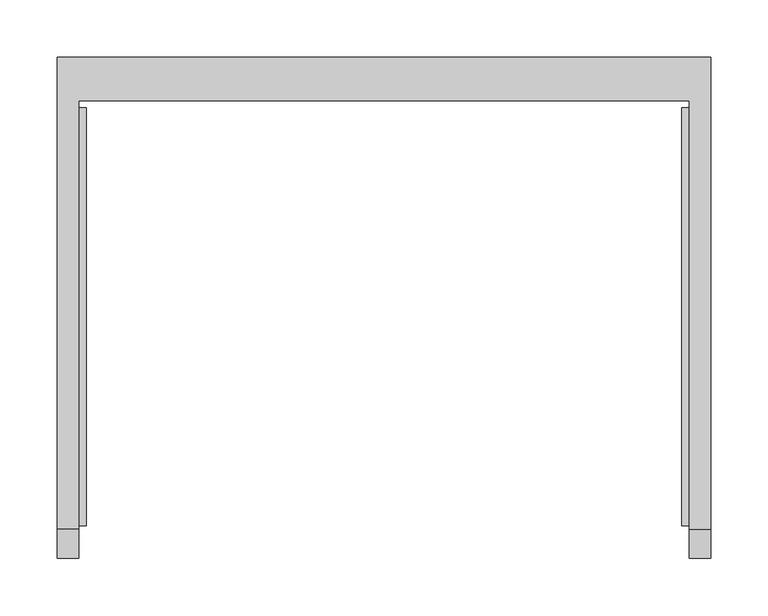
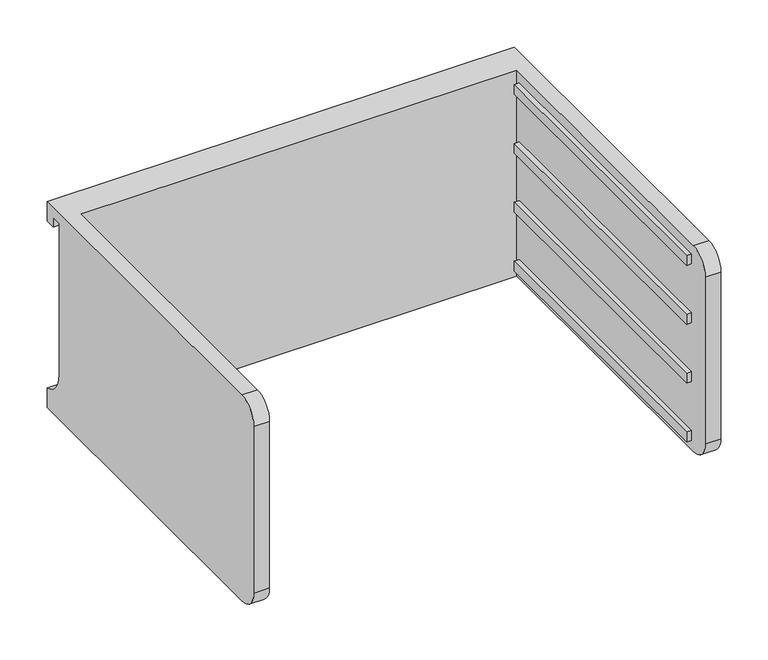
"""IFC4 building model written with IfcOpenShell, lengths in millimetres: furniture geometry."""

from ifc_helpers import new_model, si_unit, frame, origin, place, context, project, spatial, polyline, circle_curve, outline, extrude, source, transform, mapped, element, save
from ifc_brep_helpers import plane_surface, cylinder_surface, revolved_surface, advanced_brep


def furniture_cf1839e9(model_context):
    return source(origin(), model_context, "Body", "SolidModel", [
        advanced_brep(
        [(-171.7622951, -331.6523397, 592.1375), (-171.7622951, -357.0523397, 566.7375), (-171.7622951, -357.0523397, 350.8375), (-171.7622951, -331.6523397, 325.4375), (-171.7622951, 43.0421197, 325.4375), (-171.7622951, 43.0421197, 592.1375), (-190.8122951, -331.6523397, 325.4375), (-190.8122951, -357.0523397, 350.8375), (-190.8122951, -357.0523397, 566.7375), (-190.8122951, -331.6523397, 592.1375), (-190.8122951, 81.0976603, 592.1375), (-190.8122951, 81.0976603, 566.7375), (-190.8122951, 68.4421197, 566.7375), (-190.8122951, 68.4421197, 579.4375), (-190.8122951, 55.7421197, 579.4375), (-190.8122951, 55.7421197, 383.38252), (-190.8122951, 81.0976603, 350.8375), (-190.8122951, 81.0976603, 325.4375), (380.6877049, 81.0976603, 325.4375), (380.6877049, -331.6523397, 325.4375), (361.6377049, -331.6523397, 325.4375), (361.6377049, 43.0421197, 325.4375), (361.6377049, 43.0421197, 592.1375), (361.6377049, -331.6523397, 592.1375), (380.6877049, -331.6523397, 592.1375), (380.6877049, 81.0976603, 592.1375), (380.6877049, 81.0976603, 350.8375), (380.6877049, 55.7421197, 383.38252), (380.6877049, 55.7421197, 579.4375), (380.6877049, 68.4421197, 579.4375), (380.6877049, 68.4421197, 566.7375), (380.6877049, 81.0976603, 566.7375), (380.6877049, -357.0523397, 566.7375), (380.6877049, -357.0523397, 350.8375), (361.6377049, -357.0523397, 350.8375), (361.6377049, -357.0523397, 566.7375)],
        [
            (0, 1, circle_curve(frame((-171.7622951, -331.6523397, 566.7375), z_axis=(1.0, 0.0, 0.0), x_axis=(0.0, 0.0, 1.0)), 25.4)),
            (1, 2),
            (2, 3, circle_curve(frame((-171.7622951, -331.6523397, 350.8375), z_axis=(1.0, 0.0, 0.0), x_axis=(0.0, 0.0, 1.0)), 25.4)),
            (3, 4),
            (4, 5),
            (5, 0),
            (6, 7, circle_curve(frame((-190.8122951, -331.6523397, 350.8375), z_axis=(-1.0, 0.0, 0.0), x_axis=(0.0, 0.0, 1.0)), 25.4)),
            (7, 8),
            (8, 9, circle_curve(frame((-190.8122951, -331.6523397, 566.7375), z_axis=(-1.0, 0.0, 0.0), x_axis=(0.0, 0.0, 1.0)), 25.4)),
            (9, 10),
            (10, 11),
            (11, 12),
            (12, 13),
            (13, 14),
            (14, 15),
            (15, 16, circle_curve(frame((-190.8122951, 89.3064162, 383.38252), z_axis=(1.0, 0.0, 0.0), x_axis=(0.0, 0.0, 1.0)), 33.5642965)),
            (16, 17),
            (17, 6),
            (0, 9),
            (8, 1),
            (7, 2),
            (6, 3),
            (17, 18),
            (18, 19),
            (19, 20),
            (20, 21),
            (21, 4),
            (5, 22),
            (22, 23),
            (23, 24),
            (24, 25),
            (25, 10),
            (18, 26),
            (26, 27, circle_curve(frame((380.6877049, 89.3064162, 383.38252), z_axis=(-1.0, 0.0, 0.0), x_axis=(0.0, 0.0, 1.0)), 33.5642965)),
            (27, 28),
            (28, 29),
            (29, 30),
            (30, 31),
            (31, 25),
            (24, 32, circle_curve(frame((380.6877049, -331.6523397, 566.7375), z_axis=(1.0, 0.0, 0.0), x_axis=(0.0, 0.0, 1.0)), 25.4)),
            (32, 33),
            (33, 19, circle_curve(frame((380.6877049, -331.6523397, 350.8375), z_axis=(1.0, 0.0, 0.0), x_axis=(0.0, 0.0, 1.0)), 25.4)),
            (16, 26),
            (15, 27),
            (14, 28),
            (13, 29),
            (12, 30),
            (11, 31),
            (21, 22),
            (20, 34, circle_curve(frame((361.6377049, -331.6523397, 350.8375), z_axis=(-1.0, 0.0, 0.0), x_axis=(0.0, 0.0, 1.0)), 25.4)),
            (34, 35),
            (35, 23, circle_curve(frame((361.6377049, -331.6523397, 566.7375), z_axis=(-1.0, 0.0, 0.0), x_axis=(0.0, 0.0, 1.0)), 25.4)),
            (35, 32),
            (34, 33),
        ],
        [
            plane_surface(frame((-171.7622951, -331.6523397, 592.1375), z_axis=(1.0, 0.0, 0.0), x_axis=(0.0, -1.0, 0.0))),
            plane_surface(frame((-190.8122951, -331.6523397, 592.1375), z_axis=(-1.0, 0.0, 0.0), x_axis=(0.0, 1.0, 0.0))),
            cylinder_surface(frame((-190.8122951, -331.6523397, 566.7375), z_axis=(1.0, 0.0, 0.0), x_axis=(0.0, 0.0, 1.0)), 25.4),
            plane_surface(frame((-171.7622951, -357.0523397, 566.7375), z_axis=(0.0, -1.0, 0.0), x_axis=(-1.0, 0.0, 0.0))),
            cylinder_surface(frame((-190.8122951, -331.6523397, 350.8375), z_axis=(1.0, 0.0, 0.0), x_axis=(0.0, 0.0, 1.0)), 25.4),
            plane_surface(frame((-171.7622951, -331.6523397, 325.4375), z_axis=(0.0, 0.0, -1.0), x_axis=(-1.0, 0.0, 0.0))),
            plane_surface(frame((-171.7622951, 43.0421197, 592.1375), z_axis=(0.0, 0.0, 1.0), x_axis=(-1.0, 0.0, 0.0))),
            plane_surface(frame((380.6877049, 81.0976603, 350.8375), z_axis=(1.0, 0.0, 0.0), x_axis=(0.0, 0.0, 1.0))),
            plane_surface(frame((380.6877049, 81.0976603, 325.4375), z_axis=(0.0, 1.0, 0.0), x_axis=(-1.0, 0.0, 0.0))),
            revolved_surface(polyline([(-190.8122951, 89.3064162, 416.9468165), (380.68770489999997, 89.3064162, 416.9468165)]), (-190.8122951, 89.3064162, 383.38252), (-1.0, 0.0, 0.0)),
            plane_surface(frame((380.6877049, 55.7421197, 383.38252), z_axis=(0.0, 1.0, 0.0), x_axis=(-1.0, 0.0, 0.0))),
            plane_surface(frame((380.6877049, 55.7421197, 579.4375), z_axis=(0.0, 0.0, -1.0), x_axis=(-1.0, 0.0, 0.0))),
            plane_surface(frame((380.6877049, 68.4421197, 579.4375), z_axis=(0.0, -1.0, 0.0), x_axis=(-1.0, 0.0, 0.0))),
            plane_surface(frame((380.6877049, 68.4421197, 566.7375), z_axis=(0.0, 0.0, -1.0), x_axis=(-1.0, 0.0, 0.0))),
            plane_surface(frame((380.6877049, 81.0976603, 566.7375), z_axis=(0.0, 1.0, 0.0), x_axis=(-1.0, 0.0, 0.0))),
            plane_surface(frame((380.6877049, 43.0421197, 592.1375), z_axis=(0.0, -1.0, 0.0), x_axis=(-1.0, 0.0, 0.0))),
            plane_surface(frame((361.6377049, -331.6523397, 592.1375), z_axis=(-1.0, 0.0, 0.0), x_axis=(0.0, 1.0, 0.0))),
            cylinder_surface(frame((361.6377049, -331.6523397, 566.7375), z_axis=(1.0, 0.0, 0.0), x_axis=(0.0, 0.0, 1.0)), 25.4),
            plane_surface(frame((380.6877049, -357.0523397, 566.7375), z_axis=(0.0, -1.0, 0.0), x_axis=(-1.0, 0.0, 0.0))),
            cylinder_surface(frame((361.6377049, -331.6523397, 350.8375), z_axis=(1.0, 0.0, 0.0), x_axis=(0.0, 0.0, 1.0)), 25.4),
        ],
        [
            (0, [[1, 2, 3, 4, 5, 6]]),
            (1, [[7, 8, 9, 10, 11, 12, 13, 14, 15, 16, 17, 18]]),
            (2, [[-1, 19, -9, 20]]),
            (3, [[-2, -20, -8, 21]]),
            (4, [[-3, -21, -7, 22]]),
            (5, [[-4, -22, -18, 23, 24, 25, 26, 27]]),
            (6, [[-6, 28, 29, 30, 31, 32, -10, -19]]),
            (7, [[-24, 33, 34, 35, 36, 37, 38, 39, -31, 40, 41, 42]]),
            (8, [[-33, -23, -17, 43]]),
            (9, [[-34, -43, -16, 44]]),
            (10, [[-35, -44, -15, 45]]),
            (11, [[-36, -45, -14, 46]]),
            (12, [[-37, -46, -13, 47]]),
            (13, [[-38, -47, -12, 48]]),
            (14, [[-39, -48, -11, -32]]),
            (15, [[-5, -27, 49, -28]]),
            (16, [[-29, -49, -26, 50, 51, 52]]),
            (17, [[-40, -30, -52, 53]]),
            (18, [[-41, -53, -51, 54]]),
            (19, [[-42, -54, -50, -25]]),
        ],
    ),
        extrude(outline(polyline([(355.2877049, -328.4773397), (355.2877049, 36.6921197), (361.6377049, 36.6921197), (361.6377049, -328.4773397), (355.2877049, -328.4773397)])), frame((0.0, 0.0, 414.3375), z_axis=(0.0, 0.0, 1.0), x_axis=(1.0, 0.0, 0.0)), (0.0, 0.0, 1.0), 12.7),
        extrude(outline(polyline([(355.2877049, -328.4773397), (355.2877049, 36.6921197), (361.6377049, 36.6921197), (361.6377049, -328.4773397), (355.2877049, -328.4773397)])), frame((0.0, 0.0, 490.5375), z_axis=(0.0, 0.0, 1.0), x_axis=(1.0, 0.0, 0.0)), (0.0, 0.0, 1.0), 12.7),
        extrude(outline(polyline([(355.2877049, -328.4773397), (355.2877049, 36.6921197), (361.6377049, 36.6921197), (361.6377049, -328.4773397), (355.2877049, -328.4773397)])), frame((0.0, 0.0, 566.7375), z_axis=(0.0, 0.0, 1.0), x_axis=(1.0, 0.0, 0.0)), (0.0, 0.0, 1.0), 12.7),
        extrude(outline(polyline([(355.2877049, -328.4773397), (355.2877049, 36.6921197), (361.6377049, 36.6921197), (361.6377049, -328.4773397), (355.2877049, -328.4773397)])), frame((0.0, 0.0, 338.1375), z_axis=(0.0, 0.0, 1.0), x_axis=(1.0, 0.0, 0.0)), (0.0, 0.0, 1.0), 12.7),
        extrude(outline(polyline([(-171.7622951, -328.4773397), (-171.7622951, 36.6921197), (-165.4122951, 36.6921197), (-165.4122951, -328.4773397), (-171.7622951, -328.4773397)])), frame((0.0, 0.0, 414.3375), z_axis=(0.0, 0.0, 1.0), x_axis=(1.0, 0.0, 0.0)), (0.0, 0.0, 1.0), 12.7),
        extrude(outline(polyline([(-171.7622951, -328.4773397), (-171.7622951, 36.6921197), (-165.4122951, 36.6921197), (-165.4122951, -328.4773397), (-171.7622951, -328.4773397)])), frame((0.0, 0.0, 490.5375), z_axis=(0.0, 0.0, 1.0), x_axis=(1.0, 0.0, 0.0)), (0.0, 0.0, 1.0), 12.7),
        extrude(outline(polyline([(-171.7622951, -328.4773397), (-171.7622951, 36.6921197), (-165.4122951, 36.6921197), (-165.4122951, -328.4773397), (-171.7622951, -328.4773397)])), frame((0.0, 0.0, 566.7375), z_axis=(0.0, 0.0, 1.0), x_axis=(1.0, 0.0, 0.0)), (0.0, 0.0, 1.0), 12.7),
        extrude(outline(polyline([(-171.7622951, -328.4773397), (-171.7622951, 36.6921197), (-165.4122951, 36.6921197), (-165.4122951, -328.4773397), (-171.7622951, -328.4773397)])), frame((0.0, 0.0, 338.1375), z_axis=(0.0, 0.0, 1.0), x_axis=(1.0, 0.0, 0.0)), (0.0, 0.0, 1.0), 12.7),
    ])


if __name__ == "__main__":
    model = new_model("IFC4")
    model_context = context("Model", 3, world=origin())
    ifc_project = project(units=[si_unit("LENGTHUNIT", "METRE", prefix="MILLI")], contexts=[model_context])
    site = spatial("IfcSite", under=ifc_project)
    building = spatial("IfcBuilding", under=site)
    placement = place(None, origin())
    furniture_shape = furniture_cf1839e9(model_context)
    element("IfcFurniture", 1, ObjectType="HermanMiller_CoStruc_CO205_CFrame : 10\"H x 17\"D x 22\"W", at=placement, inside=building, context=model_context, shape_type="MappedRepresentation", body=[
        mapped(furniture_shape, transform((0.0, 0.0, 0.0), x_axis=(1.0, 0.0, 0.0), y_axis=(0.0, 1.0, 0.0), z_axis=(0.0, 0.0, 1.0))),
    ])
    save(model, "model.ifc")
